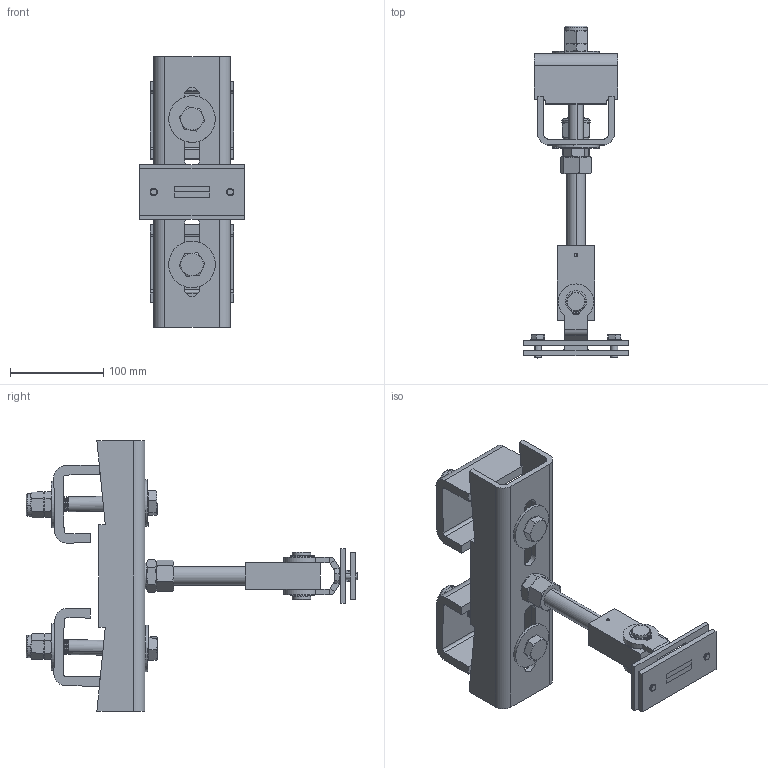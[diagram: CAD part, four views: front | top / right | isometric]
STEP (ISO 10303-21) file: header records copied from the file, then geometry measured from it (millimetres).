
FILE_DESCRIPTION (( 'STEP AP214' ), '1' );
FILE_NAME ('900.100.117.STEP', '2015-02-23T15:39:54', ( '' ), ( '' ), 'SwSTEP 2.0', 'SolidWorks 2012', '' );
FILE_SCHEMA (( 'AUTOMOTIVE_DESIGN' ));
Length unit declared in the file: millimetre
Products named in the file (21): 900.100.001; 900.100.117; hex bolt gradeab_iso_ISO 4014 - M16 x 130 x 44-S; 900.100.002-1; plain washer large_din_Washer DIN 9021 - 10.5; hex thin nut chamfered gradeab_iso_Hexagon Thin Nut ISO - 4035 - M16 - N; torque nut 01_iso_ISO 7040-M16-N; RONDELLE UNI 6592_20x28 UNI6592; hex thin nut chamfered gradeab_iso_Hexagon Thin Nut ISO - 4035 - M20 - N; DADO ESAGONALE M20 AUTOBLOCCANTE_M20 UNI7473; 900.100.007-1_Default<A macchina>; 900.100.033; 900.100.034; 900.100.005; VITI TE UNI 5739_M8x20 UNI 5739; RONDELLA 20 (21-37-1.5); 900.100.021; 900.100.105_5; curved spring lock washer_din_Spring washer DIN 128 - A10; circlip for shafts normal_din_Circlip DIN 471 - 20 x 1.2; hex nut gradec_iso_Hexagon Nut ISO - 4034 - M20 - N
Assembly tree (32 placements, depth 3):
  900.100.117
    900.100.001
    900.100.002-1  x2
    hex bolt gradeab_iso_ISO 4014 - M16 x 130 x 44-S  x2
    plain washer large_din_Washer DIN 9021 - 10.5  x4
    hex thin nut chamfered gradeab_iso_Hexagon Thin Nut ISO - 4035 - M16 - N  x2
    torque nut 01_iso_ISO 7040-M16-N  x2
    DADO ESAGONALE M20 AUTOBLOCCANTE_M20 UNI7473
    hex thin nut chamfered gradeab_iso_Hexagon Thin Nut ISO - 4035 - M20 - N
    RONDELLE UNI 6592_20x28 UNI6592  x2
    900.100.034
    900.100.033
    900.100.105_5
      900.100.007-1_Default<A macchina>
      900.100.005
      VITI TE UNI 5739_M8x20 UNI 5739  x2
      RONDELLA 20 (21-37-1.5)  x2
      900.100.021
      circlip for shafts normal_din_Circlip DIN 471 - 20 x 1.2  x2
      curved spring lock washer_din_Spring washer DIN 128 - A10  x2
    hex nut gradec_iso_Hexagon Nut ISO - 4034 - M20 - N
Bounding box: 112 x 355.96 x 290 mm (x, y, z)
Volume: 867784.4 mm3; surface area: 289732.5 mm2
Topology: 33 solids, 33 shells, 901 faces, 2154 edges, 1329 vertices
Faces by surface type: cone 330, cylinder 279, plane 270, torus 22
Entity records: 18691 total; most frequent: CARTESIAN_POINT 3841, DIRECTION 3043, ORIENTED_EDGE 2736, EDGE_CURVE 1368, AXIS2_PLACEMENT_3D 1217, VERTEX_POINT 841, EDGE_LOOP 633, VECTOR 609
